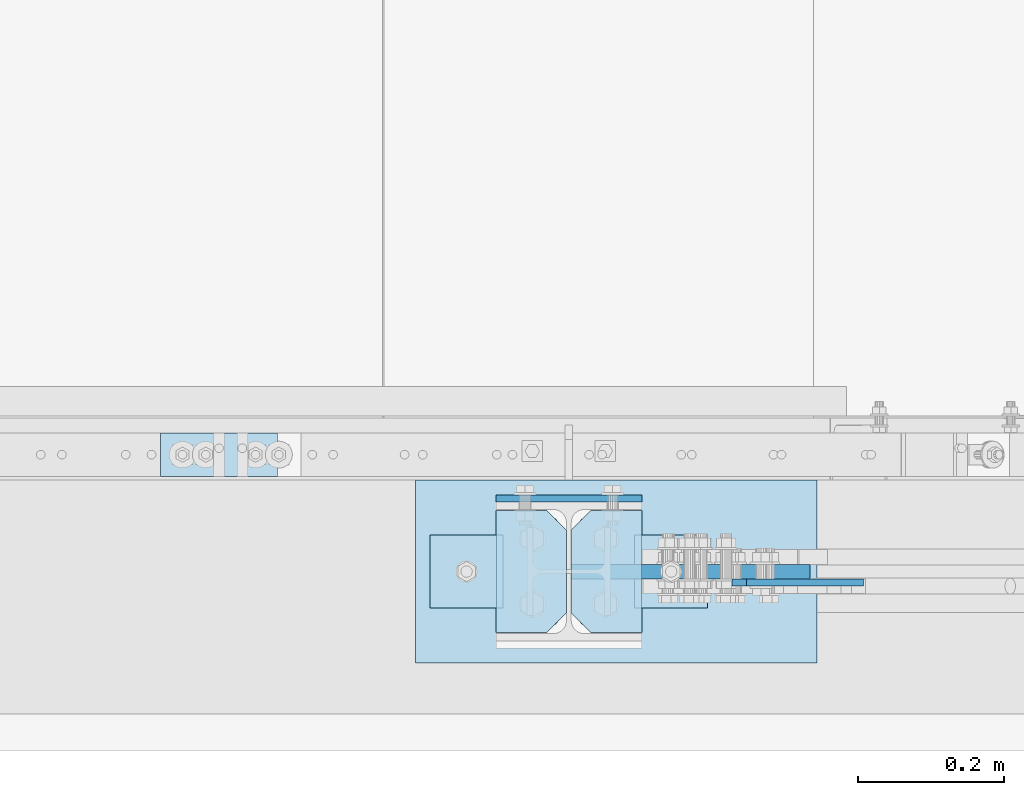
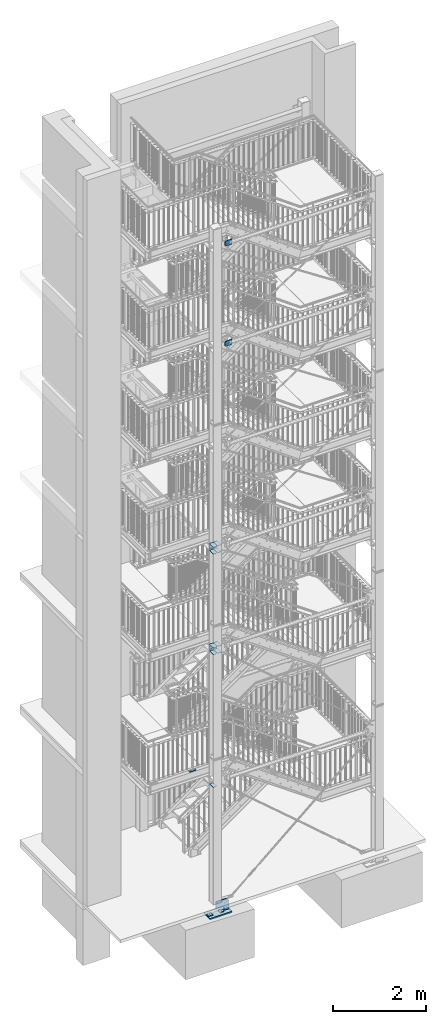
# One storey, part 151 of 831: 18 plates, 52 openings.
"""IFC2X3 building model written with IfcOpenShell, lengths in millimetres."""

import ifcopenshell
import ifcopenshell.guid

model = None  # the IFC model being written
_history = None  # IfcOwnerHistory: only IFC2X3 demands one
_inside = {}  # id of a spatial element -> (the spatial element, [elements in it])
_under = {}  # id of a project, library or spatial element -> (it, [spatial elements below it])
_declared = {}  # id of a project -> (the project, [libraries it declares])
_typed = {}  # id of a type object -> (the type object, [elements of that type])
_made_of = {}  # id of a material, layer set ... -> (it, [elements and type objects made of it])


def new_model(schema):
    """Start an empty IFC model of exactly this schema.

    Asked for "IFC4X3", IfcOpenShell would pick the latest addendum, in which some entities
    have other attributes; the version numbers below select the first issue.
    IFC2X3 requires an IfcOwnerHistory on every rooted entity: one is made here for all.
    """
    global model, _history
    if schema == "IFC4X3":
        model = ifcopenshell.file(schema_version=(4, 3, 0, 0))
    else:
        model = ifcopenshell.file(schema=schema)
    _inside.clear()
    _under.clear()
    _declared.clear()
    _typed.clear()
    _made_of.clear()
    _history = None
    if model.schema == "IFC2X3":
        org = make("IfcOrganization", Name="unknown")
        user = make(
            "IfcPersonAndOrganization",
            ThePerson=make("IfcPerson", FamilyName="unknown"),
            TheOrganization=org,
        )
        app = make(
            "IfcApplication",
            ApplicationDeveloper=org,
            Version="unknown",
            ApplicationFullName="unknown",
            ApplicationIdentifier="unknown",
        )
        _history = make(
            "IfcOwnerHistory",
            OwningUser=user,
            OwningApplication=app,
            ChangeAction="ADDED",
            CreationDate=0,
        )
    return model


def make(cls, **values):
    """One entity of the class cls with the attributes given. An attribute that is None is left unset."""
    return model.create_entity(
        cls, **{name: value for name, value in values.items() if value is not None}
    )


def entity(cls, *values):
    """Any entity or typed value of the class cls, its attributes in the order of the schema. None: left unset."""
    e = model.create_entity(cls)
    for i, value in enumerate(values):
        if value is not None:
            e[i] = value
    return e


def rooted(cls, **values):
    """An entity with a GlobalId (a new one), such as an element, a storey or a relation."""
    return make(cls, GlobalId=ifcopenshell.guid.new(), OwnerHistory=_history, **values)


def si_unit(unit_type, name, prefix=None):
    """IfcSIUnit, for example si_unit("LENGTHUNIT", "METRE", prefix="MILLI")."""
    return make("IfcSIUnit", UnitType=unit_type, Prefix=prefix, Name=name)


def converted_unit(unit_type, name, factor, base, dimensions=None, offset=None):
    """IfcConversionBasedUnit, such as the inch: factor (a typed value) times the base unit."""
    return make(
        "IfcConversionBasedUnit"
        if offset is None
        else "IfcConversionBasedUnitWithOffset",
        ConversionOffset=offset,
        Dimensions=None
        if dimensions is None
        else entity("IfcDimensionalExponents", *dimensions),
        UnitType=unit_type,
        Name=name,
        ConversionFactor=make(
            "IfcMeasureWithUnit", ValueComponent=factor, UnitComponent=base
        ),
    )


def assignment(units):
    """IfcUnitAssignment: the units of a project."""
    return None if units is None else make("IfcUnitAssignment", Units=units)


def point(xyz):
    """IfcCartesianPoint."""
    return None if xyz is None else make("IfcCartesianPoint", Coordinates=xyz)


def direction(xyz):
    """IfcDirection."""
    return None if xyz is None else make("IfcDirection", DirectionRatios=xyz)


def frame(location, z_axis=None, x_axis=None):
    """IfcAxis2Placement3D, a coordinate frame: its origin and axes. An axis left out is left unset."""
    return make(
        "IfcAxis2Placement3D",
        Location=point(location),
        Axis=direction(z_axis),
        RefDirection=direction(x_axis),
    )


def frame_2d(location, x_axis=None):
    """IfcAxis2Placement2D, a coordinate frame in the plane: its origin and x axis."""
    return make(
        "IfcAxis2Placement2D", Location=point(location), RefDirection=direction(x_axis)
    )


def origin():
    """The frame at (0, 0, 0) with its axes left unset."""
    return frame((0.0, 0.0, 0.0))


def origin_with_axes():
    """The frame at (0, 0, 0) with the z axis (0, 0, 1) and the x axis (1, 0, 0) written out."""
    return frame((0.0, 0.0, 0.0), z_axis=(0.0, 0.0, 1.0), x_axis=(1.0, 0.0, 0.0))


def origin_2d_with_axis():
    """The frame at (0, 0) in the plane with the x axis (1, 0) written out."""
    return frame_2d((0.0, 0.0), x_axis=(1.0, 0.0))


def place(relative_to, where):
    """IfcLocalPlacement: puts the frame where relative to a parent placement (None: the world)."""
    return make(
        "IfcLocalPlacement", PlacementRelTo=relative_to, RelativePlacement=where
    )


def context(
    kind, dimensions, precision=None, world=None, true_north=None, identifier=None
):
    """IfcGeometricRepresentationContext, for example the 3D "Model" context."""
    return make(
        "IfcGeometricRepresentationContext",
        ContextIdentifier=identifier,
        ContextType=kind,
        CoordinateSpaceDimension=dimensions,
        Precision=precision,
        WorldCoordinateSystem=world,
        TrueNorth=true_north,
    )


def project(units=None, contexts=None):
    """IfcProject with its units and contexts."""
    return rooted(
        "IfcProject",
        Name="project",
        RepresentationContexts=contexts,
        UnitsInContext=assignment(units),
    )


def spatial(cls, under=None, at=None, **own):
    """A site, building, storey or space (cls), placed at a placement, below another one or the project."""
    s = rooted(cls, ObjectPlacement=at, **own)
    if under is not None:
        _under.setdefault(under.id(), (under, []))[1].append(s)
    return s


def polyline(points):
    """IfcPolyline through the points."""
    return make("IfcPolyline", Points=[point(p) for p in points])


def circle_curve(where, radius):
    """IfcCircle in the frame where."""
    return make("IfcCircle", Position=where, Radius=radius)


def line_curve(start, along, magnitude):
    """IfcLine from a point along a vector."""
    return make(
        "IfcLine",
        Pnt=point(start),
        Dir=make("IfcVector", Orientation=direction(along), Magnitude=magnitude),
    )


def trimmed(basis, trim1, trim2, sense, master):
    """IfcTrimmedCurve: the piece of a basis curve between two trims."""
    return make(
        "IfcTrimmedCurve",
        BasisCurve=basis,
        Trim1=trim1,
        Trim2=trim2,
        SenseAgreement=sense,
        MasterRepresentation=master,
    )


def segment(curve, same_sense, transition):
    """IfcCompositeCurveSegment."""
    return make(
        "IfcCompositeCurveSegment",
        Transition=transition,
        SameSense=same_sense,
        ParentCurve=curve,
    )


def composite_curve(segments, self_intersect=None):
    """IfcCompositeCurve: segments joined end to end."""
    return make("IfcCompositeCurve", Segments=segments, SelfIntersect=self_intersect)


def profile(cls, at=None, kind="AREA", **sizes):
    """A parametric profile (cls). Its sizes go by their IFC names, for example OverallWidth=200.0."""
    return make(cls, ProfileType=kind, Position=at, **sizes)


def circle(**sizes):
    """IfcCircleProfileDef."""
    return profile("IfcCircleProfileDef", **sizes)


def outline(outer, holes=None, kind="AREA"):
    """IfcArbitraryClosedProfileDef: a profile drawn as a closed curve; with holes, ...WithVoids."""
    if holes is None:
        return make("IfcArbitraryClosedProfileDef", ProfileType=kind, OuterCurve=outer)
    return make(
        "IfcArbitraryProfileDefWithVoids",
        ProfileType=kind,
        OuterCurve=outer,
        InnerCurves=holes,
    )


def extrude(swept, where, along, depth):
    """IfcExtrudedAreaSolid: the profile swept, set in the frame where, extruded along a direction by depth."""
    return make(
        "IfcExtrudedAreaSolid",
        SweptArea=swept,
        Position=where,
        ExtrudedDirection=direction(along),
        Depth=depth,
    )


def shape(context_of_items, identifier, shape_type, items):
    """IfcShapeRepresentation: the items that make up one representation, for example the "Body"."""
    return make(
        "IfcShapeRepresentation",
        ContextOfItems=context_of_items,
        RepresentationIdentifier=identifier,
        RepresentationType=shape_type,
        Items=items,
    )


def material(Name=None, Category=None):
    """IfcMaterial."""
    return make("IfcMaterial", Name=Name, Category=Category)


def layer(
    of_material, thickness, ventilated=None, Name=None, Category=None, Priority=None
):
    """IfcMaterialLayer: one layer of a wall or slab, of a material (None: an air gap)."""
    return make(
        "IfcMaterialLayer",
        Material=of_material,
        LayerThickness=thickness,
        IsVentilated=ventilated,
        Name=Name,
        Category=Category,
        Priority=Priority,
    )


def layer_set(layers, Name=None):
    """IfcMaterialLayerSet."""
    return make("IfcMaterialLayerSet", MaterialLayers=layers, LayerSetName=Name)


def made_of(thing, what):
    """Note that an element or type object is made of a material, layer set ...; save() writes the relation."""
    if what is not None:
        _made_of.setdefault(what.id(), (what, []))[1].append(thing)
    return thing


def element(
    cls,
    number,
    at=None,
    inside=None,
    cuts=None,
    type_object=None,
    material=None,
    context=None,
    identifier="Body",
    shape_type=None,
    held_by="IfcProductDefinitionShape",
    body=None,
    shapes=None,
    **own,
):
    """One element of the class cls, such as IfcWall. Its Tag is "e" and its number.

    at: its placement. inside: the storey or other place that contains it. cuts: it is an
    opening in that element (IfcRelVoidsElement). A single representation is given by context,
    identifier, shape_type and body (its items); several are given by shapes. held_by: the class
    of the entity that holds the representations. save() writes the other relations.
    """
    e = rooted(cls, Tag="e%d" % number, ObjectPlacement=at, **own)
    if body is not None:
        shapes = [shape(context, identifier, shape_type, body)]
    if shapes is not None:
        e.Representation = make(held_by, Representations=shapes)
    if inside is not None:
        _inside.setdefault(inside.id(), (inside, []))[1].append(e)
    if cuts is not None:
        rooted(
            "IfcRelVoidsElement", RelatingBuildingElement=cuts, RelatedOpeningElement=e
        )
    if type_object is not None:
        _typed.setdefault(type_object.id(), (type_object, []))[1].append(e)
    return made_of(e, material)


def aggregate(whole, parts):
    """IfcRelAggregates: a whole, such as a stair, and the parts it consists of."""
    return rooted("IfcRelAggregates", RelatingObject=whole, RelatedObjects=parts)


def save(model, path):
    """Write the relations noted so far, then the file.

    IfcRelAggregates (storeys below a building ...), IfcRelContainedInSpatialStructure (elements
    in a storey), IfcRelDefinesByType, IfcRelAssociatesMaterial and IfcRelDeclares: one each for
    every whole, place, type object, material and project.
    """
    for whole, parts in _under.values():
        aggregate(whole, parts)
    for where, things in _inside.values():
        rooted(
            "IfcRelContainedInSpatialStructure",
            RelatedElements=things,
            RelatingStructure=where,
        )
    for kind, things in _typed.values():
        rooted("IfcRelDefinesByType", RelatedObjects=things, RelatingType=kind)
    for what, things in _made_of.values():
        rooted("IfcRelAssociatesMaterial", RelatedObjects=things, RelatingMaterial=what)
    for by, libraries in _declared.values():
        rooted("IfcRelDeclares", RelatingContext=by, RelatedDefinitions=libraries)
    model.write(path)


model = new_model("IFC2X3")

# Units and contexts
model_context = context("Model", 3, precision=1e-09, world=origin_with_axes())
ifc_project = project(units=[si_unit("LENGTHUNIT", "METRE", prefix="MILLI"), si_unit("AREAUNIT", "SQUARE_METRE"), si_unit("VOLUMEUNIT", "CUBIC_METRE"), converted_unit("PLANEANGLEUNIT", "DEGREE", entity("IfcPlaneAngleMeasure", 0.01745329), si_unit("PLANEANGLEUNIT", "RADIAN"), dimensions=[0, 0, 0, 0, 0, 0, 0])], contexts=[model_context])

# Site, building, storey
site_placement = place(None, origin_with_axes())
site = spatial("IfcSite", under=ifc_project, at=site_placement, Name="Site", CompositionType="ELEMENT")
building_placement = place(site_placement, origin_with_axes())
building = spatial("IfcBuilding", under=site, at=building_placement, Name="Struktur 1", CompositionType="ELEMENT")
storey_placement = place(building_placement, origin_with_axes())
storey = spatial("IfcBuildingStorey", under=building, at=storey_placement, Name="Default Storey", CompositionType="ELEMENT", Elevation=0.0)

# Plate, openings
ifc_material = material(Name="S235JR")
ifc_layer_1 = layer(ifc_material, 10.0)
ifc_layer_set_1 = layer_set([ifc_layer_1], Name="S235JR")
plate_1_placement = place(None, frame((4756.713402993, 4450.236971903, 3427.0), z_axis=(0.0, 0.0, -1.0), x_axis=(1.0, 0.0, 0.0)))
plate_1 = element("IfcPlate", 1, at=plate_1_placement, inside=storey, material=ifc_layer_set_1, Name="Stiffener#4", ObjectType="Stiffener#4", context=model_context, shape_type="SweptSolid", body=[
    extrude(outline(polyline([(0.0, 0.0), (96.75, 0.0), (96.75, 167.0), (0.0, 167.0), (0.0, 0.0)])), origin_with_axes(), (0.0, 0.0, 1.0), 10.0),
])
opening_1_placement = place(plate_1_placement, frame((0.0, 0.0, -0.01), z_axis=(0.0, 0.0, 1.0), x_axis=(1.0, 0.0, 0.0)))
element("IfcOpeningElement", 2, at=opening_1_placement, cuts=plate_1, ObjectType="Opening", context=model_context, shape_type="SweptSolid", body=[
    extrude(outline(polyline([(96.75, 167.0), (69.75, 167.0), (96.75, 140.0), (96.75, 167.0)])), origin(), (0.0, 0.0, 1.0), 10.02),
])
opening_2_placement = place(plate_1_placement, frame((0.0, 0.0, -0.01), z_axis=(0.0, 0.0, 1.0), x_axis=(1.0, 0.0, 0.0)))
element("IfcOpeningElement", 3, at=opening_2_placement, cuts=plate_1, ObjectType="Opening", context=model_context, shape_type="SweptSolid", body=[
    extrude(outline(polyline([(96.75, 0.0), (96.75, 27.0), (69.75, 0.0), (96.75, 0.0)])), origin(), (0.0, 0.0, 1.0), 10.02),
])

plate_2_placement = place(None, frame((4856.713402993, 4471.736971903, 6985.0), z_axis=(0.0, -1.0, 0.0), x_axis=(0.0, 0.0, -1.0)))
plate_2 = element("IfcPlate", 4, at=plate_2_placement, inside=storey, material=ifc_layer_set_1, Name="Endplate", ObjectType="Endplate", context=model_context, shape_type="SweptSolid", body=[
    extrude(outline(polyline([(-90.0, -100.0), (90.0, -100.0), (90.0, 100.0), (-90.0, 100.0), (-90.0, -100.0)])), origin_with_axes(), (0.0, 0.0, 1.0), 10.0),
])
opening_3_placement = place(plate_2_placement, frame((-67.0, -21.25, 10.5), z_axis=(0.0, 0.0, -1.0), x_axis=(1.0, 0.0, 0.0)))
element("IfcOpeningElement", 5, at=opening_3_placement, cuts=plate_2, ObjectType="Opening", context=model_context, shape_type="SweptSolid", body=[
    extrude(circle(Radius=6.001, at=origin_2d_with_axis()), origin(), (0.0, 0.0, 1.0), 11.0),
])
opening_4_placement = place(plate_2_placement, frame((67.0, -21.25, 10.5), z_axis=(0.0, 0.0, -1.0), x_axis=(1.0, 0.0, 0.0)))
element("IfcOpeningElement", 6, at=opening_4_placement, cuts=plate_2, ObjectType="Opening", context=model_context, shape_type="SweptSolid", body=[
    extrude(circle(Radius=6.001, at=origin_2d_with_axis()), origin(), (0.0, 0.0, 1.0), 11.0),
])
opening_5_placement = place(plate_2_placement, frame((67.0, 21.25, 10.5), z_axis=(0.0, 0.0, -1.0), x_axis=(1.0, 0.0, 0.0)))
element("IfcOpeningElement", 7, at=opening_5_placement, cuts=plate_2, ObjectType="Opening", context=model_context, shape_type="SweptSolid", body=[
    extrude(circle(Radius=6.001, at=origin_2d_with_axis()), origin(), (0.0, 0.0, 1.0), 11.0),
])
opening_6_placement = place(plate_2_placement, frame((-67.0, 21.25, 10.5), z_axis=(0.0, 0.0, -1.0), x_axis=(1.0, 0.0, 0.0)))
element("IfcOpeningElement", 8, at=opening_6_placement, cuts=plate_2, ObjectType="Opening", context=model_context, shape_type="SweptSolid", body=[
    extrude(circle(Radius=6.001, at=origin_2d_with_axis()), origin(), (0.0, 0.0, 1.0), 11.0),
])
opening_7_placement = place(plate_2_placement, frame((-45.0, 60.0, 10.5), z_axis=(0.0, 0.0, -1.0), x_axis=(0.0, 1.0, 0.0)))
element("IfcOpeningElement", 9, at=opening_7_placement, cuts=plate_2, ObjectType="Opening", context=model_context, shape_type="SweptSolid", body=[
    extrude(circle(Radius=9.001, at=origin_2d_with_axis()), origin(), (0.0, 0.0, 1.0), 11.0),
])
opening_8_placement = place(plate_2_placement, frame((45.0, 60.0, 10.5), z_axis=(0.0, 0.0, -1.0), x_axis=(0.0, 1.0, 0.0)))
element("IfcOpeningElement", 10, at=opening_8_placement, cuts=plate_2, ObjectType="Opening", context=model_context, shape_type="SweptSolid", body=[
    extrude(circle(Radius=9.001, at=origin_2d_with_axis()), origin(), (0.0, 0.0, 1.0), 11.0),
])
opening_9_placement = place(plate_2_placement, frame((-45.0, -60.0, 10.5), z_axis=(0.0, 0.0, -1.0), x_axis=(0.0, -1.0, 0.0)))
element("IfcOpeningElement", 11, at=opening_9_placement, cuts=plate_2, ObjectType="Opening", context=model_context, shape_type="SweptSolid", body=[
    extrude(circle(Radius=9.001, at=origin_2d_with_axis()), origin(), (0.0, 0.0, 1.0), 11.0),
])
opening_10_placement = place(plate_2_placement, frame((45.0, -60.0, 10.5), z_axis=(0.0, 0.0, -1.0), x_axis=(0.0, -1.0, 0.0)))
element("IfcOpeningElement", 12, at=opening_10_placement, cuts=plate_2, ObjectType="Opening", context=model_context, shape_type="SweptSolid", body=[
    extrude(circle(Radius=9.001, at=origin_2d_with_axis()), origin(), (0.0, 0.0, 1.0), 11.0),
])

plate_3_placement = place(None, frame((4956.713402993, 4450.236971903, 7070.0), z_axis=(0.0, 0.0, 1.0), x_axis=(-1.0, 0.0, 0.0)))
plate_3 = element("IfcPlate", 13, at=plate_3_placement, inside=storey, material=ifc_layer_set_1, Name="Stiffener#1", ObjectType="Stiffener#1", context=model_context, shape_type="SweptSolid", body=[
    extrude(outline(polyline([(0.0, 0.0), (96.75, 0.0), (96.75, 167.0), (0.0, 167.0), (0.0, 0.0)])), origin_with_axes(), (0.0, 0.0, 1.0), 10.0),
])
opening_11_placement = place(plate_3_placement, frame((0.0, 0.0, -0.01), z_axis=(0.0, 0.0, 1.0), x_axis=(1.0, 0.0, 0.0)))
element("IfcOpeningElement", 14, at=opening_11_placement, cuts=plate_3, ObjectType="Opening", context=model_context, shape_type="SweptSolid", body=[
    extrude(outline(polyline([(96.75, 167.0), (69.75, 167.0), (96.75, 140.0), (96.75, 167.0)])), origin(), (0.0, 0.0, 1.0), 10.02),
])
opening_12_placement = place(plate_3_placement, frame((0.0, 0.0, -0.01), z_axis=(0.0, 0.0, 1.0), x_axis=(1.0, 0.0, 0.0)))
element("IfcOpeningElement", 15, at=opening_12_placement, cuts=plate_3, ObjectType="Opening", context=model_context, shape_type="SweptSolid", body=[
    extrude(outline(polyline([(96.75, 0.0), (96.75, 27.0), (69.75, 0.0), (96.75, 0.0)])), origin(), (0.0, 0.0, 1.0), 10.02),
])

plate_4_placement = place(None, frame((4853.463402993, 4450.236971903, 7070.0), z_axis=(0.0, 0.0, 1.0), x_axis=(-1.0, 0.0, 0.0)))
plate_4 = element("IfcPlate", 16, at=plate_4_placement, inside=storey, material=ifc_layer_set_1, Name="Stiffener#2", ObjectType="Stiffener#2", context=model_context, shape_type="SweptSolid", body=[
    extrude(outline(polyline([(0.0, 0.0), (96.75, 0.0), (96.75, 167.0), (0.0, 167.0), (0.0, 0.0)])), origin_with_axes(), (0.0, 0.0, 1.0), 10.0),
])
opening_13_placement = place(plate_4_placement, frame((0.0, 0.0, -0.01), z_axis=(0.0, 0.0, 1.0), x_axis=(1.0, 0.0, 0.0)))
element("IfcOpeningElement", 17, at=opening_13_placement, cuts=plate_4, ObjectType="Opening", context=model_context, shape_type="SweptSolid", body=[
    extrude(outline(polyline([(0.0, 167.0), (0.0, 140.0), (27.0, 167.0), (0.0, 167.0)])), origin(), (0.0, 0.0, 1.0), 10.02),
])
opening_14_placement = place(plate_4_placement, frame((0.0, 0.0, -0.01), z_axis=(0.0, 0.0, 1.0), x_axis=(1.0, 0.0, 0.0)))
element("IfcOpeningElement", 18, at=opening_14_placement, cuts=plate_4, ObjectType="Opening", context=model_context, shape_type="SweptSolid", body=[
    extrude(outline(polyline([(0.0, 0.0), (27.0, 0.0), (0.0, 27.0), (0.0, 0.0)])), origin(), (0.0, 0.0, 1.0), 10.02),
])

plate_5_placement = place(None, frame((4859.963402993, 4450.236971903, 6900.0), z_axis=(0.0, 0.0, -1.0), x_axis=(1.0, 0.0, 0.0)))
plate_5 = element("IfcPlate", 19, at=plate_5_placement, inside=storey, material=ifc_layer_set_1, Name="Stiffener#3", ObjectType="Stiffener#3", context=model_context, shape_type="SweptSolid", body=[
    extrude(outline(polyline([(0.0, 0.0), (96.75, 0.0), (96.75, 167.0), (0.0, 167.0), (0.0, 0.0)])), origin_with_axes(), (0.0, 0.0, 1.0), 10.0),
])
opening_15_placement = place(plate_5_placement, frame((0.0, 0.0, -0.01), z_axis=(0.0, 0.0, 1.0), x_axis=(1.0, 0.0, 0.0)))
element("IfcOpeningElement", 20, at=opening_15_placement, cuts=plate_5, ObjectType="Opening", context=model_context, shape_type="SweptSolid", body=[
    extrude(outline(polyline([(0.0, 167.0), (0.0, 140.0), (27.0, 167.0), (0.0, 167.0)])), origin(), (0.0, 0.0, 1.0), 10.02),
])
opening_16_placement = place(plate_5_placement, frame((0.0, 0.0, -0.01), z_axis=(0.0, 0.0, 1.0), x_axis=(1.0, 0.0, 0.0)))
element("IfcOpeningElement", 21, at=opening_16_placement, cuts=plate_5, ObjectType="Opening", context=model_context, shape_type="SweptSolid", body=[
    extrude(outline(polyline([(0.0, 0.0), (27.0, 0.0), (0.0, 27.0), (0.0, 0.0)])), origin(), (0.0, 0.0, 1.0), 10.02),
])

plate_6_placement = place(None, frame((4756.713402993, 4450.236971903, 6900.0), z_axis=(0.0, 0.0, -1.0), x_axis=(1.0, 0.0, 0.0)))
plate_6 = element("IfcPlate", 22, at=plate_6_placement, inside=storey, material=ifc_layer_set_1, Name="Stiffener#4", ObjectType="Stiffener#4", context=model_context, shape_type="SweptSolid", body=[
    extrude(outline(polyline([(0.0, 0.0), (96.75, 0.0), (96.75, 167.0), (0.0, 167.0), (0.0, 0.0)])), origin_with_axes(), (0.0, 0.0, 1.0), 10.0),
])
opening_17_placement = place(plate_6_placement, frame((0.0, 0.0, -0.01), z_axis=(0.0, 0.0, 1.0), x_axis=(1.0, 0.0, 0.0)))
element("IfcOpeningElement", 23, at=opening_17_placement, cuts=plate_6, ObjectType="Opening", context=model_context, shape_type="SweptSolid", body=[
    extrude(outline(polyline([(96.75, 167.0), (69.75, 167.0), (96.75, 140.0), (96.75, 167.0)])), origin(), (0.0, 0.0, 1.0), 10.02),
])
opening_18_placement = place(plate_6_placement, frame((0.0, 0.0, -0.01), z_axis=(0.0, 0.0, 1.0), x_axis=(1.0, 0.0, 0.0)))
element("IfcOpeningElement", 24, at=opening_18_placement, cuts=plate_6, ObjectType="Opening", context=model_context, shape_type="SweptSolid", body=[
    extrude(outline(polyline([(96.75, 0.0), (96.75, 27.0), (69.75, 0.0), (96.75, 0.0)])), origin(), (0.0, 0.0, 1.0), 10.02),
])

plate_7_placement = place(None, frame((4856.713402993, 4471.736971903, 9617.0), z_axis=(0.0, -1.0, 0.0), x_axis=(0.0, 0.0, -1.0)))
plate_7 = element("IfcPlate", 25, at=plate_7_placement, inside=storey, material=ifc_layer_set_1, Name="Endplate", ObjectType="Endplate", context=model_context, shape_type="SweptSolid", body=[
    extrude(outline(polyline([(-90.0, -100.0), (90.0, -100.0), (90.0, 100.0), (-90.0, 100.0), (-90.0, -100.0)])), origin_with_axes(), (0.0, 0.0, 1.0), 10.0),
])
opening_19_placement = place(plate_7_placement, frame((-67.0, -21.25, 10.5), z_axis=(0.0, 0.0, -1.0), x_axis=(1.0, 0.0, 0.0)))
element("IfcOpeningElement", 26, at=opening_19_placement, cuts=plate_7, ObjectType="Opening", context=model_context, shape_type="SweptSolid", body=[
    extrude(circle(Radius=6.001, at=origin_2d_with_axis()), origin(), (0.0, 0.0, 1.0), 11.0),
])
opening_20_placement = place(plate_7_placement, frame((67.0, -21.25, 10.5), z_axis=(0.0, 0.0, -1.0), x_axis=(1.0, 0.0, 0.0)))
element("IfcOpeningElement", 27, at=opening_20_placement, cuts=plate_7, ObjectType="Opening", context=model_context, shape_type="SweptSolid", body=[
    extrude(circle(Radius=6.001, at=origin_2d_with_axis()), origin(), (0.0, 0.0, 1.0), 11.0),
])
opening_21_placement = place(plate_7_placement, frame((67.0, 21.25, 10.5), z_axis=(0.0, 0.0, -1.0), x_axis=(1.0, 0.0, 0.0)))
element("IfcOpeningElement", 28, at=opening_21_placement, cuts=plate_7, ObjectType="Opening", context=model_context, shape_type="SweptSolid", body=[
    extrude(circle(Radius=6.001, at=origin_2d_with_axis()), origin(), (0.0, 0.0, 1.0), 11.0),
])
opening_22_placement = place(plate_7_placement, frame((-67.0, 21.25, 10.5), z_axis=(0.0, 0.0, -1.0), x_axis=(1.0, 0.0, 0.0)))
element("IfcOpeningElement", 29, at=opening_22_placement, cuts=plate_7, ObjectType="Opening", context=model_context, shape_type="SweptSolid", body=[
    extrude(circle(Radius=6.001, at=origin_2d_with_axis()), origin(), (0.0, 0.0, 1.0), 11.0),
])
opening_23_placement = place(plate_7_placement, frame((-45.0, -60.0, 10.5), z_axis=(0.0, 0.0, -1.0), x_axis=(0.0, -1.0, 0.0)))
element("IfcOpeningElement", 30, at=opening_23_placement, cuts=plate_7, ObjectType="Opening", context=model_context, shape_type="SweptSolid", body=[
    extrude(circle(Radius=9.001, at=origin_2d_with_axis()), origin(), (0.0, 0.0, 1.0), 11.0),
])
opening_24_placement = place(plate_7_placement, frame((45.0, -60.0, 10.5), z_axis=(0.0, 0.0, -1.0), x_axis=(0.0, -1.0, 0.0)))
element("IfcOpeningElement", 31, at=opening_24_placement, cuts=plate_7, ObjectType="Opening", context=model_context, shape_type="SweptSolid", body=[
    extrude(circle(Radius=9.001, at=origin_2d_with_axis()), origin(), (0.0, 0.0, 1.0), 11.0),
])
opening_25_placement = place(plate_7_placement, frame((45.0, 60.0, 10.5), z_axis=(0.0, 0.0, -1.0), x_axis=(0.0, 1.0, 0.0)))
element("IfcOpeningElement", 32, at=opening_25_placement, cuts=plate_7, ObjectType="Opening", context=model_context, shape_type="SweptSolid", body=[
    extrude(circle(Radius=9.001, at=origin_2d_with_axis()), origin(), (0.0, 0.0, 1.0), 11.0),
])
opening_26_placement = place(plate_7_placement, frame((-45.0, 60.0, 10.5), z_axis=(0.0, 0.0, -1.0), x_axis=(0.0, 1.0, 0.0)))
element("IfcOpeningElement", 33, at=opening_26_placement, cuts=plate_7, ObjectType="Opening", context=model_context, shape_type="SweptSolid", body=[
    extrude(circle(Radius=9.001, at=origin_2d_with_axis()), origin(), (0.0, 0.0, 1.0), 11.0),
])

plate_8_placement = place(None, frame((4956.713402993, 4450.236971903, 9702.0), z_axis=(0.0, 0.0, 1.0), x_axis=(-1.0, 0.0, 0.0)))
plate_8 = element("IfcPlate", 34, at=plate_8_placement, inside=storey, material=ifc_layer_set_1, Name="Stiffener#1", ObjectType="Stiffener#1", context=model_context, shape_type="SweptSolid", body=[
    extrude(outline(polyline([(0.0, 0.0), (96.75, 0.0), (96.75, 167.0), (0.0, 167.0), (0.0, 0.0)])), origin_with_axes(), (0.0, 0.0, 1.0), 10.0),
])
opening_27_placement = place(plate_8_placement, frame((0.0, 0.0, -0.01), z_axis=(0.0, 0.0, 1.0), x_axis=(1.0, 0.0, 0.0)))
element("IfcOpeningElement", 35, at=opening_27_placement, cuts=plate_8, ObjectType="Opening", context=model_context, shape_type="SweptSolid", body=[
    extrude(outline(polyline([(96.75, 167.0), (69.75, 167.0), (96.75, 140.0), (96.75, 167.0)])), origin(), (0.0, 0.0, 1.0), 10.02),
])
opening_28_placement = place(plate_8_placement, frame((0.0, 0.0, -0.01), z_axis=(0.0, 0.0, 1.0), x_axis=(1.0, 0.0, 0.0)))
element("IfcOpeningElement", 36, at=opening_28_placement, cuts=plate_8, ObjectType="Opening", context=model_context, shape_type="SweptSolid", body=[
    extrude(outline(polyline([(96.75, 0.0), (96.75, 27.0), (69.75, 0.0), (96.75, 0.0)])), origin(), (0.0, 0.0, 1.0), 10.02),
])

plate_9_placement = place(None, frame((4853.463402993, 4450.236971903, 9702.0), z_axis=(0.0, 0.0, 1.0), x_axis=(-1.0, 0.0, 0.0)))
plate_9 = element("IfcPlate", 37, at=plate_9_placement, inside=storey, material=ifc_layer_set_1, Name="Stiffener#2", ObjectType="Stiffener#2", context=model_context, shape_type="SweptSolid", body=[
    extrude(outline(polyline([(0.0, 0.0), (96.75, 0.0), (96.75, 167.0), (0.0, 167.0), (0.0, 0.0)])), origin_with_axes(), (0.0, 0.0, 1.0), 10.0),
])
opening_29_placement = place(plate_9_placement, frame((0.0, 0.0, -0.01), z_axis=(0.0, 0.0, 1.0), x_axis=(1.0, 0.0, 0.0)))
element("IfcOpeningElement", 38, at=opening_29_placement, cuts=plate_9, ObjectType="Opening", context=model_context, shape_type="SweptSolid", body=[
    extrude(outline(polyline([(0.0, 167.0), (0.0, 140.0), (27.0, 167.0), (0.0, 167.0)])), origin(), (0.0, 0.0, 1.0), 10.02),
])
opening_30_placement = place(plate_9_placement, frame((0.0, 0.0, -0.01), z_axis=(0.0, 0.0, 1.0), x_axis=(1.0, 0.0, 0.0)))
element("IfcOpeningElement", 39, at=opening_30_placement, cuts=plate_9, ObjectType="Opening", context=model_context, shape_type="SweptSolid", body=[
    extrude(outline(polyline([(0.0, 0.0), (27.0, 0.0), (0.0, 27.0), (0.0, 0.0)])), origin(), (0.0, 0.0, 1.0), 10.02),
])

plate_10_placement = place(None, frame((4859.963402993, 4450.236971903, 9532.0), z_axis=(0.0, 0.0, -1.0), x_axis=(1.0, 0.0, 0.0)))
plate_10 = element("IfcPlate", 40, at=plate_10_placement, inside=storey, material=ifc_layer_set_1, Name="Stiffener#3", ObjectType="Stiffener#3", context=model_context, shape_type="SweptSolid", body=[
    extrude(outline(polyline([(0.0, 0.0), (96.75, 0.0), (96.75, 167.0), (0.0, 167.0), (0.0, 0.0)])), origin_with_axes(), (0.0, 0.0, 1.0), 10.0),
])
opening_31_placement = place(plate_10_placement, frame((0.0, 0.0, -0.01), z_axis=(0.0, 0.0, 1.0), x_axis=(1.0, 0.0, 0.0)))
element("IfcOpeningElement", 41, at=opening_31_placement, cuts=plate_10, ObjectType="Opening", context=model_context, shape_type="SweptSolid", body=[
    extrude(outline(polyline([(0.0, 167.0), (0.0, 140.0), (27.0, 167.0), (0.0, 167.0)])), origin(), (0.0, 0.0, 1.0), 10.02),
])
opening_32_placement = place(plate_10_placement, frame((0.0, 0.0, -0.01), z_axis=(0.0, 0.0, 1.0), x_axis=(1.0, 0.0, 0.0)))
element("IfcOpeningElement", 42, at=opening_32_placement, cuts=plate_10, ObjectType="Opening", context=model_context, shape_type="SweptSolid", body=[
    extrude(outline(polyline([(0.0, 0.0), (27.0, 0.0), (0.0, 27.0), (0.0, 0.0)])), origin(), (0.0, 0.0, 1.0), 10.02),
])

plate_11_placement = place(None, frame((4756.713402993, 4450.236971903, 9532.0), z_axis=(0.0, 0.0, -1.0), x_axis=(1.0, 0.0, 0.0)))
plate_11 = element("IfcPlate", 43, at=plate_11_placement, inside=storey, material=ifc_layer_set_1, Name="Stiffener#4", ObjectType="Stiffener#4", context=model_context, shape_type="SweptSolid", body=[
    extrude(outline(polyline([(0.0, 0.0), (96.75, 0.0), (96.75, 167.0), (0.0, 167.0), (0.0, 0.0)])), origin_with_axes(), (0.0, 0.0, 1.0), 10.0),
])
opening_33_placement = place(plate_11_placement, frame((0.0, 0.0, -0.01), z_axis=(0.0, 0.0, 1.0), x_axis=(1.0, 0.0, 0.0)))
element("IfcOpeningElement", 44, at=opening_33_placement, cuts=plate_11, ObjectType="Opening", context=model_context, shape_type="SweptSolid", body=[
    extrude(outline(polyline([(96.75, 167.0), (69.75, 167.0), (96.75, 140.0), (96.75, 167.0)])), origin(), (0.0, 0.0, 1.0), 10.02),
])
opening_34_placement = place(plate_11_placement, frame((0.0, 0.0, -0.01), z_axis=(0.0, 0.0, 1.0), x_axis=(1.0, 0.0, 0.0)))
element("IfcOpeningElement", 45, at=opening_34_placement, cuts=plate_11, ObjectType="Opening", context=model_context, shape_type="SweptSolid", body=[
    extrude(outline(polyline([(96.75, 0.0), (96.75, 27.0), (69.75, 0.0), (96.75, 0.0)])), origin(), (0.0, 0.0, 1.0), 10.02),
])

plate_12_placement = place(None, frame((5169.963401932, 4356.736971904, 14878.999996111), z_axis=(0.0, 1.0, 0.0), x_axis=(-1.0, 0.0, 0.0)))
plate_12 = element("IfcPlate", 46, at=plate_12_placement, inside=storey, material=ifc_layer_set_1, Name="-", ObjectType="-", context=model_context, shape_type="SweptSolid", body=[
    extrude(outline(polyline([(-90.0, -70.0), (90.0, -70.0), (90.0, 70.0), (-90.0, 70.0), (-90.0, -70.0)])), origin_with_axes(), (0.0, 0.0, -1.0), 10.0),
])
opening_35_placement = place(plate_12_placement, frame((90.0, -70.0, 0.01), z_axis=(0.0, 0.0, 1.0), x_axis=(0.0, 1.0, 0.0)))
element("IfcOpeningElement", 47, at=opening_35_placement, cuts=plate_12, ObjectType="Opening", context=model_context, shape_type="SweptSolid", body=[
    extrude(outline(polyline([(0.0, 0.0), (20.0, 0.0), (0.0, 20.0), (0.0, 0.0)])), origin(), (0.0, 0.0, -1.0), 10.02),
])
opening_36_placement = place(plate_12_placement, frame((90.0, 70.0, 0.01), z_axis=(0.0, 0.0, 1.0), x_axis=(-1.0, 0.0, 0.0)))
element("IfcOpeningElement", 48, at=opening_36_placement, cuts=plate_12, ObjectType="Opening", context=model_context, shape_type="SweptSolid", body=[
    extrude(outline(polyline([(0.0, 0.0), (20.0, 0.0), (0.0, 20.0), (0.0, 0.0)])), origin(), (0.0, 0.0, -1.0), 10.02),
])
opening_37_placement = place(plate_12_placement, frame((40.999, 30.0, 0.5), z_axis=(0.0, 0.0, 1.0), x_axis=(1.0, 0.0, 0.0)))
element("IfcOpeningElement", 49, at=opening_37_placement, cuts=plate_12, ObjectType="Opening", context=model_context, shape_type="SweptSolid", body=[
    extrude(circle(Radius=9.001, at=frame_2d((9.001, 0.0), x_axis=(1.0, 0.0))), origin(), (0.0, 0.0, -1.0), 11.0),
])
opening_38_placement = place(plate_12_placement, frame((40.999, -30.0, 0.5), z_axis=(0.0, 0.0, 1.0), x_axis=(1.0, 0.0, 0.0)))
element("IfcOpeningElement", 50, at=opening_38_placement, cuts=plate_12, ObjectType="Opening", context=model_context, shape_type="SweptSolid", body=[
    extrude(circle(Radius=9.001, at=frame_2d((9.001, 0.0), x_axis=(1.0, 0.0))), origin(), (0.0, 0.0, -1.0), 11.0),
])

plate_13_placement = place(None, frame((5169.963401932, 4356.736971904, 17498.999996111), z_axis=(0.0, 1.0, 0.0), x_axis=(-1.0, 0.0, 0.0)))
plate_13 = element("IfcPlate", 51, at=plate_13_placement, inside=storey, material=ifc_layer_set_1, Name="-", ObjectType="-", context=model_context, shape_type="SweptSolid", body=[
    extrude(outline(polyline([(-90.0, -70.0), (90.0, -70.0), (90.0, 70.0), (-90.0, 70.0), (-90.0, -70.0)])), origin_with_axes(), (0.0, 0.0, -1.0), 10.0),
])
opening_39_placement = place(plate_13_placement, frame((90.0, -70.0, 0.01), z_axis=(0.0, 0.0, 1.0), x_axis=(0.0, 1.0, 0.0)))
element("IfcOpeningElement", 52, at=opening_39_placement, cuts=plate_13, ObjectType="Opening", context=model_context, shape_type="SweptSolid", body=[
    extrude(outline(polyline([(0.0, 0.0), (20.0, 0.0), (0.0, 20.0), (0.0, 0.0)])), origin(), (0.0, 0.0, -1.0), 10.02),
])
opening_40_placement = place(plate_13_placement, frame((90.0, 70.0, 0.01), z_axis=(0.0, 0.0, 1.0), x_axis=(-1.0, 0.0, 0.0)))
element("IfcOpeningElement", 53, at=opening_40_placement, cuts=plate_13, ObjectType="Opening", context=model_context, shape_type="SweptSolid", body=[
    extrude(outline(polyline([(0.0, 0.0), (20.0, 0.0), (0.0, 20.0), (0.0, 0.0)])), origin(), (0.0, 0.0, -1.0), 10.02),
])
opening_41_placement = place(plate_13_placement, frame((40.999, 30.0, 0.5), z_axis=(0.0, 0.0, 1.0), x_axis=(1.0, 0.0, 0.0)))
element("IfcOpeningElement", 54, at=opening_41_placement, cuts=plate_13, ObjectType="Opening", context=model_context, shape_type="SweptSolid", body=[
    extrude(circle(Radius=9.001, at=frame_2d((9.001, 0.0), x_axis=(1.0, 0.0))), origin(), (0.0, 0.0, -1.0), 11.0),
])
opening_42_placement = place(plate_13_placement, frame((40.999, -30.0, 0.5), z_axis=(0.0, 0.0, 1.0), x_axis=(1.0, 0.0, 0.0)))
element("IfcOpeningElement", 55, at=opening_42_placement, cuts=plate_13, ObjectType="Opening", context=model_context, shape_type="SweptSolid", body=[
    extrude(circle(Radius=9.001, at=frame_2d((9.001, 0.0), x_axis=(1.0, 0.0))), origin(), (0.0, 0.0, -1.0), 11.0),
])

ifc_layer_2 = layer(ifc_material, 20.0)
ifc_layer_set_2 = layer_set([ifc_layer_2], Name="S235JR")
plate_14_placement = place(None, frame((4297.865638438, 4496.736971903, 3847.0), z_axis=(0.0, 0.0, 1.0), x_axis=(1.0, 0.0, 0.0)))
plate_14 = element("IfcPlate", 56, at=plate_14_placement, inside=storey, material=ifc_layer_set_2, Name="Plate#511", ObjectType="Plate#511", context=model_context, shape_type="SweptSolid", body=[
    extrude(outline(polyline([(0.0, 0.0), (160.0, 0.0), (160.0, 60.0), (0.0, 60.0), (0.0, 0.0)])), origin_with_axes(), (0.0, 0.0, 1.0), 20.0),
])
opening_43_placement = place(plate_14_placement, frame((38.0, 37.001, 20.5), z_axis=(0.0, 0.0, 1.0), x_axis=(-1.0, 0.0, 0.0)))
element("IfcOpeningElement", 57, at=opening_43_placement, cuts=plate_14, ObjectType="Opening", context=model_context, shape_type="SweptSolid", body=[
    extrude(outline(composite_curve([segment(trimmed(line_curve((0.0, 0.0), (1.0, 0.0), 16.0), [point((0.0, 0.0))], [point((16.0, 0.0))], True, "CARTESIAN"), True, "CONTINUOUS"), segment(trimmed(circle_curve(frame_2d((16.0, 7.001), x_axis=(1.0, 0.0)), 7.001), [point((16.0, 0.0))], [point((16.0, 14.002))], True, "CARTESIAN"), True, "CONTINUOUS"), segment(trimmed(line_curve((16.0, 14.002), (-1.0, 0.0), 16.0), [point((16.0, 14.002))], [point((0.0, 14.002))], True, "CARTESIAN"), True, "CONTINUOUS"), segment(trimmed(circle_curve(frame_2d((0.0, 7.001), x_axis=(1.0, 0.0)), 7.001), [point((0.0, 14.002))], [point((0.0, 0.0))], True, "CARTESIAN"), True, "CONTINUOUS")], self_intersect=False)), origin(), (0.0, 0.0, -1.0), 21.0),
])
opening_44_placement = place(plate_14_placement, frame((138.0, 37.001, 20.5), z_axis=(0.0, 0.0, 1.0), x_axis=(-1.0, 0.0, 0.0)))
element("IfcOpeningElement", 58, at=opening_44_placement, cuts=plate_14, ObjectType="Opening", context=model_context, shape_type="SweptSolid", body=[
    extrude(outline(composite_curve([segment(trimmed(line_curve((0.0, 0.0), (1.0, 0.0), 16.0), [point((0.0, 0.0))], [point((16.0, 0.0))], True, "CARTESIAN"), True, "CONTINUOUS"), segment(trimmed(circle_curve(frame_2d((16.0, 7.001), x_axis=(1.0, 0.0)), 7.001), [point((16.0, 0.0))], [point((16.0, 14.002))], True, "CARTESIAN"), True, "CONTINUOUS"), segment(trimmed(line_curve((16.0, 14.002), (-1.0, 0.0), 16.0), [point((16.0, 14.002))], [point((0.0, 14.002))], True, "CARTESIAN"), True, "CONTINUOUS"), segment(trimmed(circle_curve(frame_2d((0.0, 7.001), x_axis=(1.0, 0.0)), 7.001), [point((0.0, 14.002))], [point((0.0, 0.0))], True, "CARTESIAN"), True, "CONTINUOUS")], self_intersect=False)), origin(), (0.0, 0.0, -1.0), 21.0),
])

ifc_layer_3 = layer(ifc_material, 30.0)
ifc_layer_set_3 = layer_set([ifc_layer_3], Name="S235JR")
plate_15_placement = place(None, frame((4921.713402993, 4366.736971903, 30.0), z_axis=(0.0, 0.0, 1.0), x_axis=(1.0, 0.0, 0.0)))
plate_15 = element("IfcPlate", 59, at=plate_15_placement, inside=storey, material=ifc_layer_set_3, Name="-", ObjectType="-", context=model_context, shape_type="SweptSolid", body=[
    extrude(outline(polyline([(-275.0, -125.0), (275.0, -125.0), (275.0, 125.0), (-275.0, 125.0), (-275.0, -125.0)])), origin_with_axes(), (0.0, 0.0, 1.0), 30.0),
])
opening_45_placement = place(plate_15_placement, frame((-65.0, 0.0, -0.5), z_axis=(0.0, 0.0, 1.0), x_axis=(1.0, 0.0, 0.0)))
element("IfcOpeningElement", 60, at=opening_45_placement, cuts=plate_15, ObjectType="Opening", context=model_context, shape_type="SweptSolid", body=[
    extrude(circle(Radius=28.001, at=frame_2d((140.0, 0.0), x_axis=(1.0, 0.0))), origin(), (0.0, 0.0, 1.0), 31.0),
])
opening_46_placement = place(plate_15_placement, frame((-65.0, 0.0, -0.5), z_axis=(0.0, 0.0, 1.0), x_axis=(1.0, 0.0, 0.0)))
element("IfcOpeningElement", 61, at=opening_46_placement, cuts=plate_15, ObjectType="Opening", context=model_context, shape_type="SweptSolid", body=[
    extrude(circle(Radius=28.001, at=frame_2d((-140.0, 0.0), x_axis=(1.0, 0.0))), origin(), (0.0, 0.0, 1.0), 31.0),
])

plate_16_placement = place(None, frame((5023.338402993, 4376.736971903, 206.477386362), z_axis=(0.0, -1.0, 0.0), x_axis=(1.0, 0.0, 0.0)))
plate_16 = element("IfcPlate", 62, at=plate_16_placement, inside=storey, material=ifc_layer_set_2, Name="-", ObjectType="-", context=model_context, shape_type="SweptSolid", body=[
    extrude(outline(polyline([(-163.375, -146.477386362), (163.375, -146.477386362), (163.375, 146.477386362), (-163.375, 146.477386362), (-163.375, -146.477386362)])), origin_with_axes(), (0.0, 0.0, 1.0), 20.0),
])
opening_47_placement = place(plate_16_placement, frame((0.0, 0.0, -0.1), z_axis=(0.0, 0.0, 1.0), x_axis=(1.0, 0.0, 0.0)))
element("IfcOpeningElement", 63, at=opening_47_placement, cuts=plate_16, ObjectType="Opening", context=model_context, shape_type="SweptSolid", body=[
    extrude(outline(composite_curve([segment(trimmed(circle_curve(frame_2d((-198.468160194, -200.200309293), x_axis=(1.0, 0.0)), 40.0), [point((-238.468160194, -200.200309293))], [point((-198.468160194, -240.200309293))], True, "CARTESIAN"), True, "CONTINUOUS"), segment(trimmed(line_curve((-198.468160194, -240.200309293), (1.0, 0.0), 201.844160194), [point((-198.468160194, -240.200309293))], [point((3.376, -240.200309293))], True, "CARTESIAN"), True, "CONTINUOUS"), segment(trimmed(circle_curve(frame_2d((3.376, -200.200309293), x_axis=(1.0, 0.0)), 40.0), [point((3.376, -240.200309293))], [point((43.376, -200.200309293))], True, "CARTESIAN"), True, "CONTINUOUS"), segment(trimmed(line_curve((43.376, -200.200309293), (0.0, 1.0), 126.678695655), [point((43.376, -200.200309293))], [point((43.376, -73.521613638))], True, "CARTESIAN"), True, "CONTINUOUS"), segment(trimmed(circle_curve(frame_2d((3.376, -73.521613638), x_axis=(1.0, 0.0)), 40.0), [point((43.376, -73.521613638))], [point((3.376, -33.521613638))], True, "CARTESIAN"), True, "CONTINUOUS"), segment(trimmed(line_curve((3.376, -33.521613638), (-1.0, 0.0), 201.844160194), [point((3.376, -33.521613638))], [point((-198.468160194, -33.521613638))], True, "CARTESIAN"), True, "CONTINUOUS"), segment(trimmed(circle_curve(frame_2d((-198.468160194, -73.521613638), x_axis=(1.0, 0.0)), 40.0), [point((-198.468160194, -33.521613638))], [point((-238.468160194, -73.521613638))], True, "CARTESIAN"), True, "CONTINUOUS"), segment(trimmed(line_curve((-238.468160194, -73.521613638), (0.0, -1.0), 126.678695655), [point((-238.468160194, -73.521613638))], [point((-238.468160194, -200.200309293))], True, "CARTESIAN"), True, "CONTINUOUS")], self_intersect=False)), origin(), (0.0, 0.0, 1.0), 20.2),
])
opening_48_placement = place(plate_16_placement, frame((0.0, 0.0, -0.1), z_axis=(0.0, 0.0, 1.0), x_axis=(1.0, 0.0, 0.0)))
element("IfcOpeningElement", 64, at=opening_48_placement, cuts=plate_16, ObjectType="Opening", context=model_context, shape_type="SweptSolid", body=[
    extrude(outline(polyline([(82.436515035, 172.110953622), (190.565633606, 45.142354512), (190.565633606, 188.31649289), (82.436515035, 172.110953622)])), origin(), (0.0, 0.0, 1.0), 20.2),
])
opening_49_placement = place(plate_16_placement, frame((84.23057179, 69.47110058, -0.5), z_axis=(0.0, 0.0, 1.0), x_axis=(0.757867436, 0.652408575, 0.0)))
element("IfcOpeningElement", 65, at=opening_49_placement, cuts=plate_16, ObjectType="Opening", context=model_context, shape_type="SweptSolid", body=[
    extrude(circle(Radius=9.001, at=frame_2d((30.0, 0.0), x_axis=(1.0, 0.0))), origin(), (0.0, 0.0, 1.0), 21.0),
])
opening_50_placement = place(plate_16_placement, frame((84.23057179, 69.47110058, -0.5), z_axis=(0.0, 0.0, 1.0), x_axis=(0.757867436, 0.652408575, 0.0)))
element("IfcOpeningElement", 66, at=opening_50_placement, cuts=plate_16, ObjectType="Opening", context=model_context, shape_type="SweptSolid", body=[
    extrude(circle(Radius=9.001, at=frame_2d((-30.0, 0.0), x_axis=(1.0, 0.0))), origin(), (0.0, 0.0, 1.0), 21.0),
])

# Plate, opening
ifc_layer_4 = layer(ifc_material, 12.0)
ifc_layer_set_4 = layer_set([ifc_layer_4], Name="S235JR")
plate_17_placement = place(None, frame((4716.713402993, 4366.736971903, 60.0), z_axis=(0.0, 0.0, 1.0), x_axis=(1.0, 0.0, 0.0)))
plate_17 = element("IfcPlate", 67, at=plate_17_placement, inside=storey, material=ifc_layer_set_4, Name="-", ObjectType="-", context=model_context, shape_type="SweptSolid", body=[
    extrude(outline(polyline([(-50.0, -50.0), (50.0, -50.0), (50.0, 50.0), (-50.0, 50.0), (-50.0, -50.0)])), origin_with_axes(), (0.0, 0.0, 1.0), 12.0),
])
opening_51_placement = place(plate_17_placement, frame((1e-09, 1e-09, -0.5), z_axis=(0.0, 0.0, 1.0), x_axis=(1.0, 0.0, 0.0)))
element("IfcOpeningElement", 68, at=opening_51_placement, cuts=plate_17, ObjectType="Opening", context=model_context, shape_type="SweptSolid", body=[
    extrude(circle(Radius=9.001, at=origin_2d_with_axis()), origin(), (0.0, 0.0, 1.0), 13.0),
])

plate_18_placement = place(None, frame((4996.713402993, 4366.736971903, 60.0), z_axis=(0.0, 0.0, 1.0), x_axis=(1.0, 0.0, 0.0)))
plate_18 = element("IfcPlate", 69, at=plate_18_placement, inside=storey, material=ifc_layer_set_4, Name="-", ObjectType="-", context=model_context, shape_type="SweptSolid", body=[
    extrude(outline(polyline([(-50.0, -50.0), (50.0, -50.0), (50.0, 50.0), (-50.0, 50.0), (-50.0, -50.0)])), origin_with_axes(), (0.0, 0.0, 1.0), 12.0),
])
opening_52_placement = place(plate_18_placement, frame((1e-09, 1e-09, -0.5), z_axis=(0.0, 0.0, 1.0), x_axis=(1.0, 0.0, 0.0)))
element("IfcOpeningElement", 70, at=opening_52_placement, cuts=plate_18, ObjectType="Opening", context=model_context, shape_type="SweptSolid", body=[
    extrude(circle(Radius=9.001, at=origin_2d_with_axis()), origin(), (0.0, 0.0, 1.0), 13.0),
])

save(model, "model.ifc")
